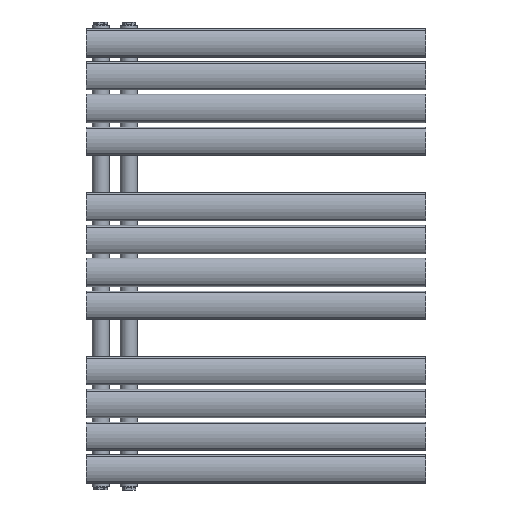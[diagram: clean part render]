
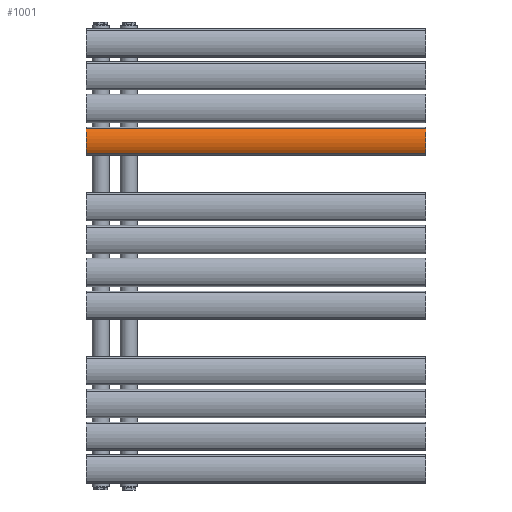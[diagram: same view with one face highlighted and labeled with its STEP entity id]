
A CAD part, front view. The second image highlights one B-rep face of the part: STEP entity #1001.
In plain terms, the highlighted cylindrical face has radius 39.5 mm (diameter 79 mm), a partial arc.
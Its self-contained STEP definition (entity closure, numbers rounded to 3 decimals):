
#105=LINE('',#2577,#137);
#106=LINE('',#2583,#138);
#137=VECTOR('',#1298,10.);
#138=VECTOR('',#1305,10.);
#330=FACE_OUTER_BOUND('',#433,.T.);
#433=EDGE_LOOP('',(#844,#845,#846,#847));
#481=CIRCLE('',#1119,39.5);
#482=CIRCLE('',#1120,39.5);
#564=VERTEX_POINT('',#2573);
#565=VERTEX_POINT('',#2575);
#566=VERTEX_POINT('',#2579);
#567=VERTEX_POINT('',#2581);
#665=EDGE_CURVE('',#564,#565,#105,.T.);
#666=EDGE_CURVE('',#564,#566,#481,.T.);
#667=EDGE_CURVE('',#567,#565,#482,.T.);
#668=EDGE_CURVE('',#566,#567,#106,.T.);
#844=ORIENTED_EDGE('',*,*,#666,.F.);
#845=ORIENTED_EDGE('',*,*,#665,.T.);
#846=ORIENTED_EDGE('',*,*,#667,.F.);
#847=ORIENTED_EDGE('',*,*,#668,.F.);
#966=CYLINDRICAL_SURFACE('',#1118,39.5);
#1001=ADVANCED_FACE('',(#330),#966,.T.);
#1118=AXIS2_PLACEMENT_3D('',#2578,#1299,#1300);
#1119=AXIS2_PLACEMENT_3D('',#2580,#1301,#1302);
#1120=AXIS2_PLACEMENT_3D('',#2582,#1303,#1304);
#1298=DIRECTION('',(0.,0.,-1.));
#1299=DIRECTION('center_axis',(0.,0.,-1.));
#1300=DIRECTION('ref_axis',(-0.552,-0.834,0.));
#1301=DIRECTION('center_axis',(0.,0.,1.));
#1302=DIRECTION('ref_axis',(-0.552,-0.834,0.));
#1303=DIRECTION('center_axis',(0.,0.,-1.));
#1304=DIRECTION('ref_axis',(-0.552,-0.834,0.));
#1305=DIRECTION('',(0.,0.,-1.));
#2573=CARTESIAN_POINT('',(-21.816,-18.429,0.));
#2575=CARTESIAN_POINT('',(-21.816,-18.429,-600.));
#2577=CARTESIAN_POINT('',(-21.816,-18.429,0.));
#2578=CARTESIAN_POINT('Origin',(0.,14.5,0.));
#2579=CARTESIAN_POINT('',(21.816,-18.429,0.));
#2580=CARTESIAN_POINT('Origin',(0.,14.5,0.));
#2581=CARTESIAN_POINT('',(21.816,-18.429,-600.));
#2582=CARTESIAN_POINT('Origin',(0.,14.5,-600.));
#2583=CARTESIAN_POINT('',(21.816,-18.429,0.));
